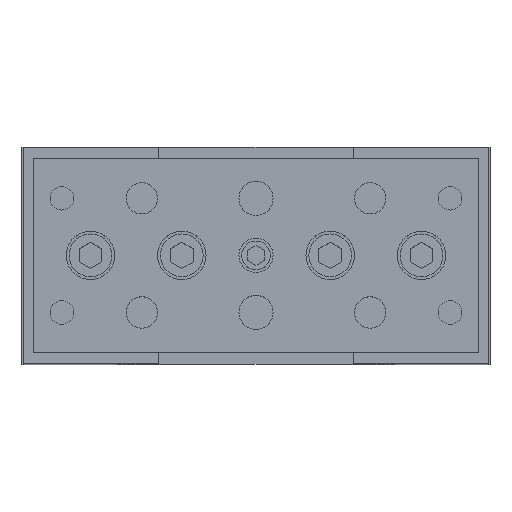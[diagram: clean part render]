
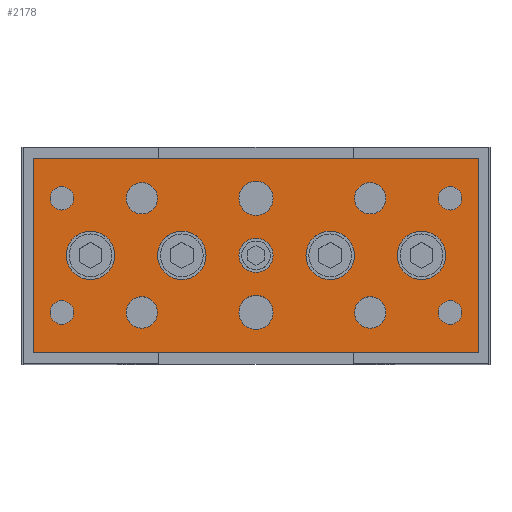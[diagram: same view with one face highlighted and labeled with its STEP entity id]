
A CAD part, top view. The second image highlights one B-rep face of the part: STEP entity #2178.
In plain terms, the highlighted planar face has unit normal (0, 0, 1).
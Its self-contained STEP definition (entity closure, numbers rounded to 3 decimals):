
#139=CARTESIAN_POINT('',(-17.25,10.0,396.));
#140=VERTEX_POINT('',#139);
#141=CARTESIAN_POINT('',(-20.0,10.0,396.));
#142=DIRECTION('',(0.0,0.0,-1.0));
#143=DIRECTION('',(-1.0,0.0,0.0));
#144=AXIS2_PLACEMENT_3D('',#141,#142,#143);
#145=CIRCLE('',#144,2.75);
#146=EDGE_CURVE('',#140,#140,#145,.T.);
#249=CARTESIAN_POINT('',(22.75,10.0,396.));
#250=VERTEX_POINT('',#249);
#251=CARTESIAN_POINT('',(20.,10.0,396.));
#252=DIRECTION('',(0.0,0.0,-1.0));
#253=DIRECTION('',(-1.0,0.0,0.0));
#254=AXIS2_PLACEMENT_3D('',#251,#252,#253);
#255=CIRCLE('',#254,2.75);
#256=EDGE_CURVE('',#250,#250,#255,.T.);
#359=CARTESIAN_POINT('',(-17.25,-10.0,396.));
#360=VERTEX_POINT('',#359);
#361=CARTESIAN_POINT('',(-20.0,-10.0,396.));
#362=DIRECTION('',(0.0,0.0,-1.0));
#363=DIRECTION('',(-1.0,0.0,0.0));
#364=AXIS2_PLACEMENT_3D('',#361,#362,#363);
#365=CIRCLE('',#364,2.75);
#366=EDGE_CURVE('',#360,#360,#365,.T.);
#469=CARTESIAN_POINT('',(22.75,-10.0,396.));
#470=VERTEX_POINT('',#469);
#471=CARTESIAN_POINT('',(20.,-10.0,396.));
#472=DIRECTION('',(0.0,0.0,-1.0));
#473=DIRECTION('',(-1.0,0.0,0.0));
#474=AXIS2_PLACEMENT_3D('',#471,#472,#473);
#475=CIRCLE('',#474,2.75);
#476=EDGE_CURVE('',#470,#470,#475,.T.);
#500=CARTESIAN_POINT('',(3.,-10.0,396.));
#501=VERTEX_POINT('',#500);
#502=CARTESIAN_POINT('',(0.0,-10.0,396.));
#503=DIRECTION('',(0.0,0.0,-1.0));
#504=DIRECTION('',(-1.0,0.0,0.0));
#505=AXIS2_PLACEMENT_3D('',#502,#503,#504);
#506=CIRCLE('',#505,3.);
#507=EDGE_CURVE('',#501,#501,#506,.T.);
#537=CARTESIAN_POINT('',(3.,10.0,396.));
#538=VERTEX_POINT('',#537);
#539=CARTESIAN_POINT('',(0.0,10.0,396.));
#540=DIRECTION('',(0.0,0.0,-1.0));
#541=DIRECTION('',(-1.0,0.0,0.0));
#542=AXIS2_PLACEMENT_3D('',#539,#540,#541);
#543=CIRCLE('',#542,3.);
#544=EDGE_CURVE('',#538,#538,#543,.T.);
#595=CARTESIAN_POINT('',(-31.933,10.0,396.));
#596=VERTEX_POINT('',#595);
#597=CARTESIAN_POINT('',(-34.0,10.0,396.));
#598=DIRECTION('',(0.0,0.0,-1.0));
#599=DIRECTION('',(1.0,0.0,0.0));
#600=AXIS2_PLACEMENT_3D('',#597,#598,#599);
#601=CIRCLE('',#600,2.067);
#602=EDGE_CURVE('',#596,#596,#601,.T.);
#644=CARTESIAN_POINT('',(36.067,10.0,396.));
#645=VERTEX_POINT('',#644);
#646=CARTESIAN_POINT('',(34.0,10.0,396.));
#647=DIRECTION('',(0.0,0.0,-1.0));
#648=DIRECTION('',(1.0,0.0,0.0));
#649=AXIS2_PLACEMENT_3D('',#646,#647,#648);
#650=CIRCLE('',#649,2.067);
#651=EDGE_CURVE('',#645,#645,#650,.T.);
#693=CARTESIAN_POINT('',(-31.933,-10.0,396.));
#694=VERTEX_POINT('',#693);
#695=CARTESIAN_POINT('',(-34.0,-10.0,396.));
#696=DIRECTION('',(0.0,0.0,-1.0));
#697=DIRECTION('',(1.0,0.0,0.0));
#698=AXIS2_PLACEMENT_3D('',#695,#696,#697);
#699=CIRCLE('',#698,2.067);
#700=EDGE_CURVE('',#694,#694,#699,.T.);
#742=CARTESIAN_POINT('',(36.067,-10.0,396.));
#743=VERTEX_POINT('',#742);
#744=CARTESIAN_POINT('',(34.0,-10.0,396.));
#745=DIRECTION('',(0.0,0.0,-1.0));
#746=DIRECTION('',(1.0,0.0,0.0));
#747=AXIS2_PLACEMENT_3D('',#744,#745,#746);
#748=CIRCLE('',#747,2.067);
#749=EDGE_CURVE('',#743,#743,#748,.T.);
#1398=CARTESIAN_POINT('',(3.,0.,396.));
#1399=VERTEX_POINT('',#1398);
#1400=CARTESIAN_POINT('',(0.0,0.0,396.));
#1401=DIRECTION('',(0.0,0.0,-1.0));
#1402=DIRECTION('',(-1.0,0.0,0.0));
#1403=AXIS2_PLACEMENT_3D('',#1400,#1401,#1402);
#1404=CIRCLE('',#1403,3.);
#1405=EDGE_CURVE('',#1399,#1399,#1404,.T.);
#1466=CARTESIAN_POINT('',(17.25,0.,396.));
#1467=VERTEX_POINT('',#1466);
#1468=CARTESIAN_POINT('',(13.,0.0,396.));
#1469=DIRECTION('',(0.0,0.0,-1.0));
#1470=DIRECTION('',(-1.0,0.0,0.0));
#1471=AXIS2_PLACEMENT_3D('',#1468,#1469,#1470);
#1472=CIRCLE('',#1471,4.25);
#1473=EDGE_CURVE('',#1467,#1467,#1472,.T.);
#1534=CARTESIAN_POINT('',(-8.75,0.,396.));
#1535=VERTEX_POINT('',#1534);
#1536=CARTESIAN_POINT('',(-13.,0.0,396.));
#1537=DIRECTION('',(0.0,0.0,-1.0));
#1538=DIRECTION('',(-1.0,0.0,0.0));
#1539=AXIS2_PLACEMENT_3D('',#1536,#1537,#1538);
#1540=CIRCLE('',#1539,4.25);
#1541=EDGE_CURVE('',#1535,#1535,#1540,.T.);
#1602=CARTESIAN_POINT('',(33.25,0.,396.));
#1603=VERTEX_POINT('',#1602);
#1604=CARTESIAN_POINT('',(29.,0.,396.));
#1605=DIRECTION('',(0.0,0.0,-1.0));
#1606=DIRECTION('',(-1.0,0.0,0.0));
#1607=AXIS2_PLACEMENT_3D('',#1604,#1605,#1606);
#1608=CIRCLE('',#1607,4.25);
#1609=EDGE_CURVE('',#1603,#1603,#1608,.T.);
#1670=CARTESIAN_POINT('',(-24.75,0.,396.));
#1671=VERTEX_POINT('',#1670);
#1672=CARTESIAN_POINT('',(-29.,0.,396.));
#1673=DIRECTION('',(0.0,0.0,-1.0));
#1674=DIRECTION('',(-1.0,0.0,0.0));
#1675=AXIS2_PLACEMENT_3D('',#1672,#1673,#1674);
#1676=CIRCLE('',#1675,4.25);
#1677=EDGE_CURVE('',#1671,#1671,#1676,.T.);
#2094=CARTESIAN_POINT('',(39.0,0.0,396.));
#2095=DIRECTION('',(0.0,0.0,1.0));
#2096=DIRECTION('',(1.0,0.0,0.0));
#2097=AXIS2_PLACEMENT_3D('',#2094,#2095,#2096);
#2098=PLANE('',#2097);
#2099=CARTESIAN_POINT('',(39.0,17.0,396.));
#2100=VERTEX_POINT('',#2099);
#2101=CARTESIAN_POINT('',(-39.0,17.0,396.));
#2102=VERTEX_POINT('',#2101);
#2103=CARTESIAN_POINT('',(39.0,17.0,396.));
#2104=DIRECTION('',(-1.0,0.0,0.0));
#2105=VECTOR('',#2104,78.0);
#2106=LINE('',#2103,#2105);
#2107=EDGE_CURVE('',#2100,#2102,#2106,.T.);
#2108=ORIENTED_EDGE('',*,*,#2107,.T.);
#2109=CARTESIAN_POINT('',(-39.0,-17.0,396.));
#2110=VERTEX_POINT('',#2109);
#2111=CARTESIAN_POINT('',(-39.0,17.0,396.));
#2112=DIRECTION('',(0.0,-1.0,0.0));
#2113=VECTOR('',#2112,34.0);
#2114=LINE('',#2111,#2113);
#2115=EDGE_CURVE('',#2102,#2110,#2114,.T.);
#2116=ORIENTED_EDGE('',*,*,#2115,.T.);
#2117=CARTESIAN_POINT('',(39.0,-17.0,396.));
#2118=VERTEX_POINT('',#2117);
#2119=CARTESIAN_POINT('',(-39.0,-17.0,396.));
#2120=DIRECTION('',(1.0,0.0,0.0));
#2121=VECTOR('',#2120,78.0);
#2122=LINE('',#2119,#2121);
#2123=EDGE_CURVE('',#2110,#2118,#2122,.T.);
#2124=ORIENTED_EDGE('',*,*,#2123,.T.);
#2125=CARTESIAN_POINT('',(39.0,-17.0,396.));
#2126=DIRECTION('',(0.0,1.0,0.0));
#2127=VECTOR('',#2126,34.0);
#2128=LINE('',#2125,#2127);
#2129=EDGE_CURVE('',#2118,#2100,#2128,.T.);
#2130=ORIENTED_EDGE('',*,*,#2129,.T.);
#2131=EDGE_LOOP('',(#2108,#2116,#2124,#2130));
#2132=FACE_OUTER_BOUND('',#2131,.T.);
#2133=ORIENTED_EDGE('',*,*,#146,.T.);
#2134=EDGE_LOOP('',(#2133));
#2135=FACE_BOUND('',#2134,.T.);
#2136=ORIENTED_EDGE('',*,*,#256,.T.);
#2137=EDGE_LOOP('',(#2136));
#2138=FACE_BOUND('',#2137,.T.);
#2139=ORIENTED_EDGE('',*,*,#366,.T.);
#2140=EDGE_LOOP('',(#2139));
#2141=FACE_BOUND('',#2140,.T.);
#2142=ORIENTED_EDGE('',*,*,#476,.T.);
#2143=EDGE_LOOP('',(#2142));
#2144=FACE_BOUND('',#2143,.T.);
#2145=ORIENTED_EDGE('',*,*,#507,.T.);
#2146=EDGE_LOOP('',(#2145));
#2147=FACE_BOUND('',#2146,.T.);
#2148=ORIENTED_EDGE('',*,*,#544,.T.);
#2149=EDGE_LOOP('',(#2148));
#2150=FACE_BOUND('',#2149,.T.);
#2151=ORIENTED_EDGE('',*,*,#602,.T.);
#2152=EDGE_LOOP('',(#2151));
#2153=FACE_BOUND('',#2152,.T.);
#2154=ORIENTED_EDGE('',*,*,#651,.T.);
#2155=EDGE_LOOP('',(#2154));
#2156=FACE_BOUND('',#2155,.T.);
#2157=ORIENTED_EDGE('',*,*,#700,.T.);
#2158=EDGE_LOOP('',(#2157));
#2159=FACE_BOUND('',#2158,.T.);
#2160=ORIENTED_EDGE('',*,*,#749,.T.);
#2161=EDGE_LOOP('',(#2160));
#2162=FACE_BOUND('',#2161,.T.);
#2163=ORIENTED_EDGE('',*,*,#1677,.T.);
#2164=EDGE_LOOP('',(#2163));
#2165=FACE_BOUND('',#2164,.T.);
#2166=ORIENTED_EDGE('',*,*,#1609,.T.);
#2167=EDGE_LOOP('',(#2166));
#2168=FACE_BOUND('',#2167,.T.);
#2169=ORIENTED_EDGE('',*,*,#1541,.T.);
#2170=EDGE_LOOP('',(#2169));
#2171=FACE_BOUND('',#2170,.T.);
#2172=ORIENTED_EDGE('',*,*,#1473,.T.);
#2173=EDGE_LOOP('',(#2172));
#2174=FACE_BOUND('',#2173,.T.);
#2175=ORIENTED_EDGE('',*,*,#1405,.T.);
#2176=EDGE_LOOP('',(#2175));
#2177=FACE_BOUND('',#2176,.T.);
#2178=ADVANCED_FACE('',(#2132,#2135,#2138,#2141,#2144,#2147,#2150,#2153,#2156,#2159,#2162,#2165,#2168,#2171,#2174,#2177),#2098,.T.);
